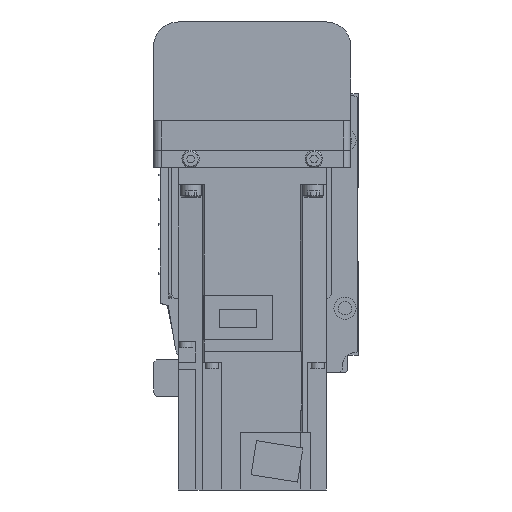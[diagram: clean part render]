
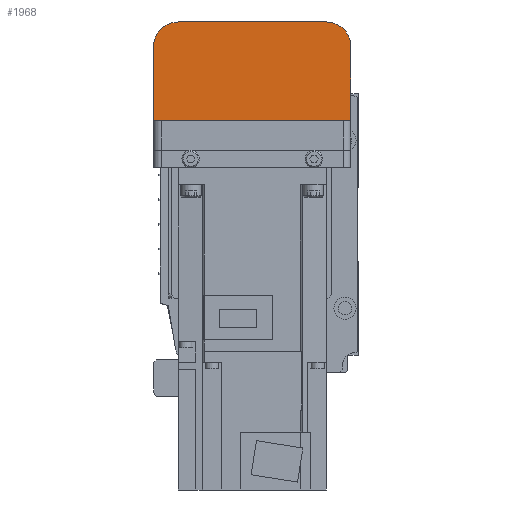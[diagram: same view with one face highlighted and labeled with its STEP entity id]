
A CAD part, left-side view. The second image highlights one B-rep face of the part: STEP entity #1968.
In plain terms, the highlighted planar face has unit normal (-1, 0, 0).
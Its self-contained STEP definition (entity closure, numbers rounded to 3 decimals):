
#1968 = ADVANCED_FACE( '', ( #4189 ), #4190, .F. );
#4189 = FACE_OUTER_BOUND( '', #6605, .T. );
#4190 = PLANE( '', #6606 );
#6605 = EDGE_LOOP( '', ( #12042, #12043, #12044, #12045, #12046, #12047 ) );
#6606 = AXIS2_PLACEMENT_3D( '', #12048, #12049, #12050 );
#12042 = ORIENTED_EDGE( '', *, *, #14936, .F. );
#12043 = ORIENTED_EDGE( '', *, *, #15654, .F. );
#12044 = ORIENTED_EDGE( '', *, *, #14494, .F. );
#12045 = ORIENTED_EDGE( '', *, *, #15528, .F. );
#12046 = ORIENTED_EDGE( '', *, *, #14409, .F. );
#12047 = ORIENTED_EDGE( '', *, *, #14794, .F. );
#12048 = CARTESIAN_POINT( '', ( -192., 37., 7. ) );
#12049 = DIRECTION( '', ( 1., 0., 0. ) );
#12050 = DIRECTION( '', ( 0., 0., -1. ) );
#14409 = EDGE_CURVE( '', #17454, #17456, #17457, .T. );
#14494 = EDGE_CURVE( '', #17593, #17595, #17596, .T. );
#14794 = EDGE_CURVE( '', #16228, #17454, #18074, .T. );
#14936 = EDGE_CURVE( '', #17139, #16228, #18288, .T. );
#15528 = EDGE_CURVE( '', #17456, #17593, #19111, .T. );
#15654 = EDGE_CURVE( '', #17595, #17139, #19278, .T. );
#16228 = VERTEX_POINT( '', #19939 );
#17139 = VERTEX_POINT( '', #21132 );
#17454 = VERTEX_POINT( '', #21556 );
#17456 = VERTEX_POINT( '', #21559 );
#17457 = CIRCLE( '', #21560, 10. );
#17593 = VERTEX_POINT( '', #21737 );
#17595 = VERTEX_POINT( '', #21740 );
#17596 = CIRCLE( '', #21741, 10. );
#18074 = LINE( '', #22398, #22399 );
#18288 = LINE( '', #22693, #22694 );
#19111 = LINE( '', #23810, #23811 );
#19278 = LINE( '', #24032, #24033 );
#19939 = CARTESIAN_POINT( '', ( -192., -40., -12.1 ) );
#21132 = CARTESIAN_POINT( '', ( -192., 40., -12.1 ) );
#21556 = CARTESIAN_POINT( '', ( -192., -40., -42. ) );
#21559 = CARTESIAN_POINT( '', ( -192., -30., -52. ) );
#21560 = AXIS2_PLACEMENT_3D( '', #25740, #25741, #25742 );
#21737 = CARTESIAN_POINT( '', ( -192., 30., -52. ) );
#21740 = CARTESIAN_POINT( '', ( -192., 40., -42. ) );
#21741 = AXIS2_PLACEMENT_3D( '', #25848, #25849, #25850 );
#22398 = CARTESIAN_POINT( '', ( -192., -40., -12.1 ) );
#22399 = VECTOR( '', #26219, 1000. );
#22693 = CARTESIAN_POINT( '', ( -192., 50., -12.1 ) );
#22694 = VECTOR( '', #26393, 1000. );
#23810 = CARTESIAN_POINT( '', ( -192., -30., -52. ) );
#23811 = VECTOR( '', #27068, 1000. );
#24032 = CARTESIAN_POINT( '', ( -192., 40., -42. ) );
#24033 = VECTOR( '', #27219, 1000. );
#25740 = CARTESIAN_POINT( '', ( -192., -30., -42. ) );
#25741 = DIRECTION( '', ( 1., 0., 0. ) );
#25742 = DIRECTION( '', ( 0., 0., -1. ) );
#25848 = CARTESIAN_POINT( '', ( -192., 30., -42. ) );
#25849 = DIRECTION( '', ( 1., 0., 0. ) );
#25850 = DIRECTION( '', ( 0., 0., -1. ) );
#26219 = DIRECTION( '', ( 0., 0., -1. ) );
#26393 = DIRECTION( '', ( 0., -1., 0. ) );
#27068 = DIRECTION( '', ( 0., 1., 0. ) );
#27219 = DIRECTION( '', ( 0., 0., 1. ) );
